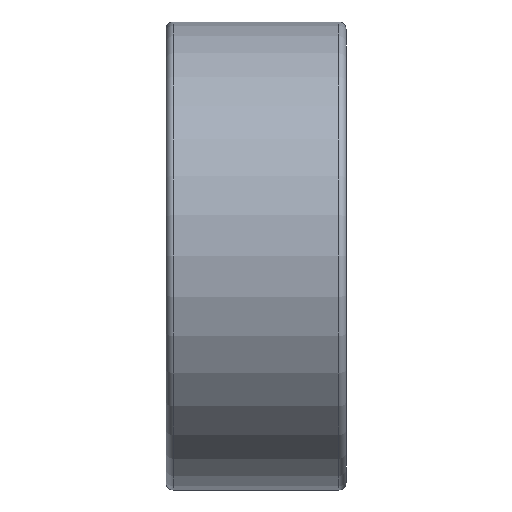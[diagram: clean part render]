
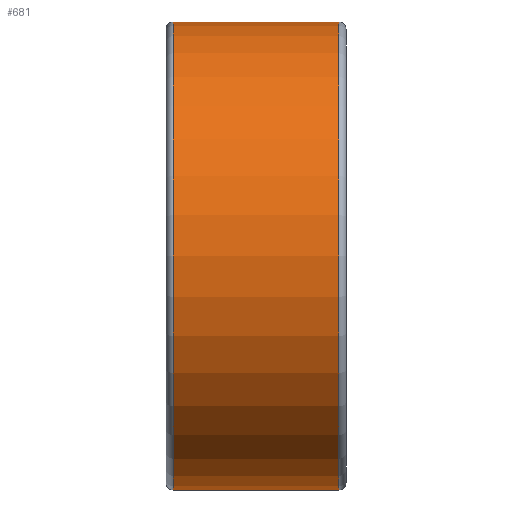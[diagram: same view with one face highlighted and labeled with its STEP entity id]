
A CAD part, front view. The second image highlights one B-rep face of the part: STEP entity #681.
In plain terms, the highlighted cylindrical face has radius 6.5 mm (diameter 13 mm), a full revolution.
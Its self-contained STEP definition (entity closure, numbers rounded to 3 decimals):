
#81=LINE('',#1315,#101);
#101=VECTOR('',#1063,6.5);
#121=CYLINDRICAL_SURFACE('',#877,6.5);
#173=FACE_OUTER_BOUND('',#224,.T.);
#224=EDGE_LOOP('',(#543,#544,#545,#546,#547,#548));
#297=CIRCLE('',#873,6.5);
#298=CIRCLE('',#874,6.5);
#301=CIRCLE('',#878,6.5);
#302=CIRCLE('',#879,6.5);
#357=VERTEX_POINT('',#1304);
#358=VERTEX_POINT('',#1305);
#360=VERTEX_POINT('',#1312);
#361=VERTEX_POINT('',#1313);
#425=EDGE_CURVE('',#357,#358,#297,.T.);
#426=EDGE_CURVE('',#358,#357,#298,.T.);
#429=EDGE_CURVE('',#360,#361,#301,.T.);
#430=EDGE_CURVE('',#360,#357,#81,.T.);
#431=EDGE_CURVE('',#361,#360,#302,.T.);
#543=ORIENTED_EDGE('',*,*,#429,.F.);
#544=ORIENTED_EDGE('',*,*,#430,.T.);
#545=ORIENTED_EDGE('',*,*,#425,.T.);
#546=ORIENTED_EDGE('',*,*,#426,.T.);
#547=ORIENTED_EDGE('',*,*,#430,.F.);
#548=ORIENTED_EDGE('',*,*,#431,.F.);
#681=ADVANCED_FACE('',(#173),#121,.T.);
#873=AXIS2_PLACEMENT_3D('',#1306,#1051,#1052);
#874=AXIS2_PLACEMENT_3D('',#1307,#1053,#1054);
#877=AXIS2_PLACEMENT_3D('',#1311,#1059,#1060);
#878=AXIS2_PLACEMENT_3D('',#1314,#1061,#1062);
#879=AXIS2_PLACEMENT_3D('',#1316,#1064,#1065);
#1051=DIRECTION('center_axis',(1.,0.,0.));
#1052=DIRECTION('ref_axis',(0.,0.,-1.));
#1053=DIRECTION('center_axis',(1.,0.,0.));
#1054=DIRECTION('ref_axis',(0.,0.,-1.));
#1059=DIRECTION('center_axis',(1.,0.,0.));
#1060=DIRECTION('ref_axis',(0.,1.,0.));
#1061=DIRECTION('center_axis',(1.,0.,0.));
#1062=DIRECTION('ref_axis',(0.,0.,-1.));
#1063=DIRECTION('',(-1.,0.,0.));
#1064=DIRECTION('center_axis',(1.,0.,0.));
#1065=DIRECTION('ref_axis',(0.,0.,-1.));
#1304=CARTESIAN_POINT('',(0.2,-6.5,0.));
#1305=CARTESIAN_POINT('',(0.2,0.,6.5));
#1306=CARTESIAN_POINT('Origin',(0.2,0.,0.));
#1307=CARTESIAN_POINT('Origin',(0.2,0.,0.));
#1311=CARTESIAN_POINT('Origin',(2.5,0.,0.));
#1312=CARTESIAN_POINT('',(4.8,-6.5,0.));
#1313=CARTESIAN_POINT('',(4.8,0.,6.5));
#1314=CARTESIAN_POINT('Origin',(4.8,0.,0.));
#1315=CARTESIAN_POINT('',(2.5,-6.5,0.));
#1316=CARTESIAN_POINT('Origin',(4.8,0.,0.));
